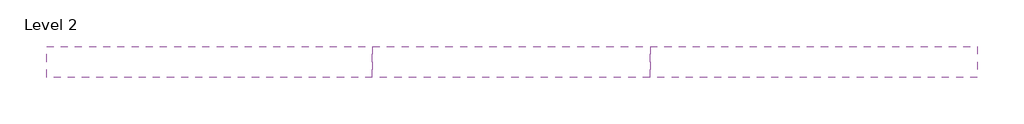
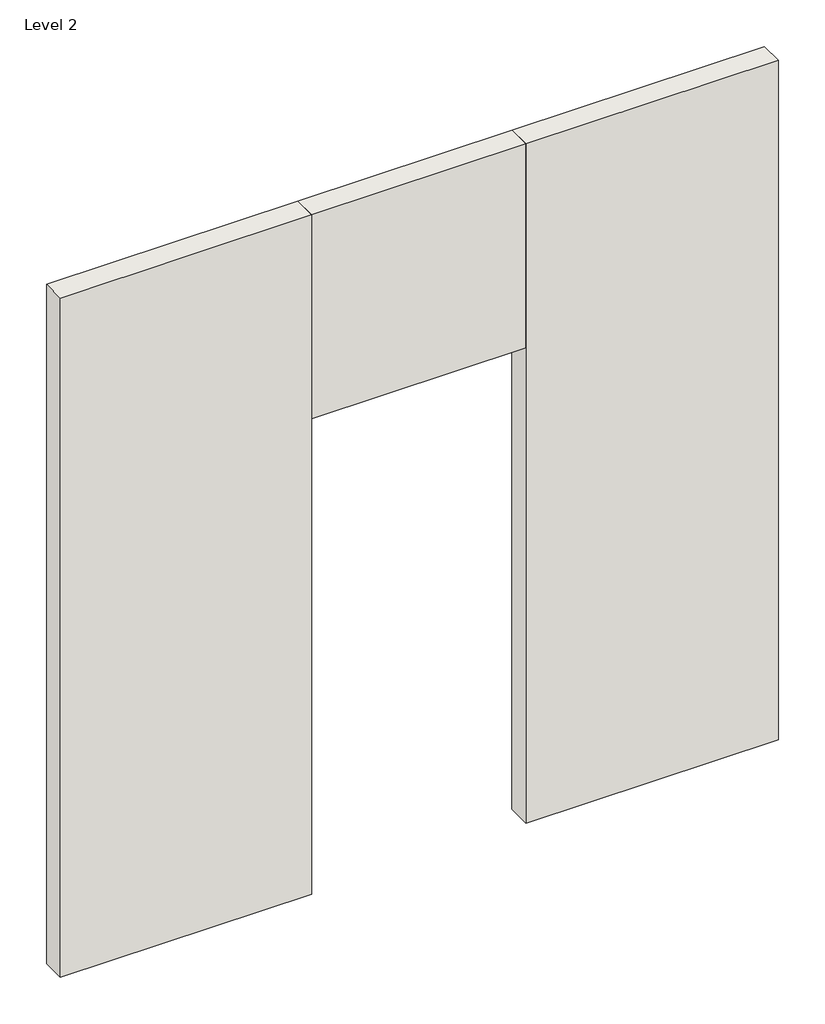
# One storey: 3 walls.
"""IFC4 building model written with IfcOpenShell, lengths in millimetres."""

from ifc_helpers import new_model, si_unit, frame, origin, place, context, project, spatial, polyline, outline, extrude, faceted_brep, element, save

model = new_model("IFC4")

# Units and contexts
model_context = context("Model", 3, world=origin())
ifc_project = project(units=[si_unit("LENGTHUNIT", "METRE", prefix="MILLI")], contexts=[model_context])

# Site, building, storey
site = spatial("IfcSite", under=ifc_project)
building = spatial("IfcBuilding", under=site)
storey = spatial("IfcBuildingStorey", under=building, Name="Level 2", Elevation=3048.0)

# Walls
placement = place(None, origin())
element("IfcWall", 1, ObjectType="Generic - 8\"", at=placement, inside=storey, context=model_context, shape_type="Brep", body=[
    faceted_brep([(27954.007289, 2654.6056529, 4419.6), (25810.9895612, 2654.6056529, 4419.6), (25810.9895612, 2654.6056529, 8686.8), (25810.9895612, 2654.6056529, 10515.6), (27954.007289, 2654.6056529, 10515.6), (27954.007289, 2451.4056529, 4419.6), (27954.007289, 2451.4056529, 10515.6), (25810.9895612, 2451.4056529, 10515.6), (25810.9895612, 2451.4056529, 8686.8), (25810.9895612, 2451.4056529, 4419.6)], [[[0, 1, 2, 3, 4]], [[5, 6, 7, 8, 9]], [[1, 0, 5, 9]], [[3, 2, 1, 9, 8, 7]], [[4, 3, 7, 6]], [[0, 4, 6, 5]]]),
])
element("IfcWall", 2, ObjectType="Generic - 8\"", at=placement, inside=storey, context=model_context, shape_type="Brep", body=[
    faceted_brep([(23991.607289, 2654.6056529, 4419.6), (21858.007289, 2654.6056529, 4419.6), (21858.007289, 2654.6056529, 10515.6), (23991.607289, 2654.6056529, 10515.6), (23991.607289, 2654.6056529, 8686.8), (23991.607289, 2451.4056529, 4419.6), (23991.607289, 2451.4056529, 8686.8), (23991.607289, 2451.4056529, 10515.6), (21858.007289, 2451.4056529, 10515.6), (21858.007289, 2451.4056529, 4419.6)], [[[0, 1, 2, 3, 4]], [[5, 6, 7, 8, 9]], [[1, 0, 5, 9]], [[2, 1, 9, 8]], [[3, 2, 8, 7]], [[0, 4, 3, 7, 6, 5]]]),
])
element("IfcWall", 3, ObjectType="Generic - 8\"", at=placement, inside=storey, context=model_context, shape_type="SweptSolid", body=[
    extrude(outline(polyline([(23991.607289, 2654.6056529), (25810.9895612, 2654.6056529), (25810.9895612, 2451.4056529), (23991.607289, 2451.4056529), (23991.607289, 2654.6056529)])), frame((0.0, 0.0, 8686.8), z_axis=(0.0, 0.0, 1.0), x_axis=(1.0, 0.0, 0.0)), (0.0, 0.0, 1.0), 1828.8),
])

save(model, "model.ifc")
